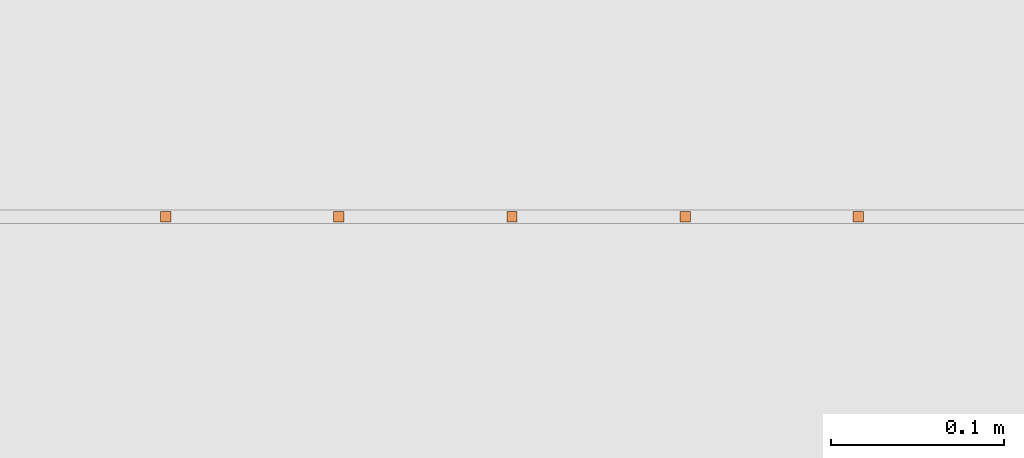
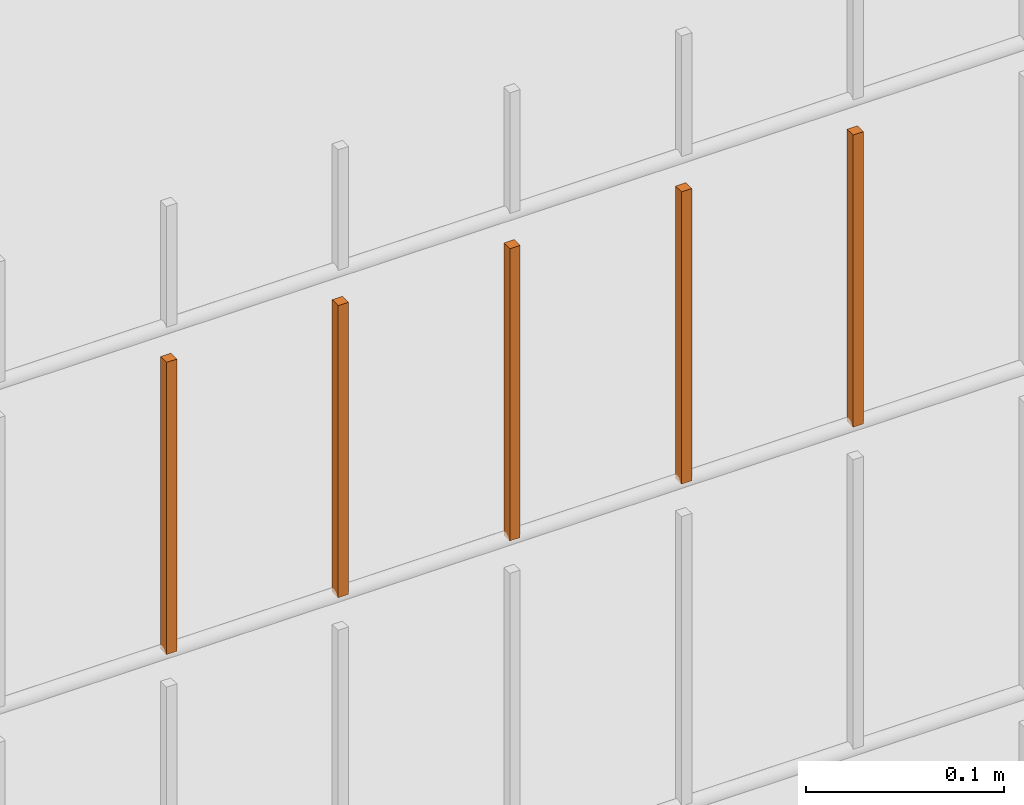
# One storey, part 236 of 1809: 5 proxies, 1 element without a shape of its own.
"""IFC2X3 building model written with IfcOpenShell, lengths in millimetres."""

import ifcopenshell
import ifcopenshell.guid

model = None  # the IFC model being written
_history = None  # IfcOwnerHistory: only IFC2X3 demands one
_inside = {}  # id of a spatial element -> (the spatial element, [elements in it])
_under = {}  # id of a project, library or spatial element -> (it, [spatial elements below it])
_declared = {}  # id of a project -> (the project, [libraries it declares])
_typed = {}  # id of a type object -> (the type object, [elements of that type])
_made_of = {}  # id of a material, layer set ... -> (it, [elements and type objects made of it])


def new_model(schema):
    """Start an empty IFC model of exactly this schema.

    Asked for "IFC4X3", IfcOpenShell would pick the latest addendum, in which some entities
    have other attributes; the version numbers below select the first issue.
    IFC2X3 requires an IfcOwnerHistory on every rooted entity: one is made here for all.
    """
    global model, _history
    if schema == "IFC4X3":
        model = ifcopenshell.file(schema_version=(4, 3, 0, 0))
    else:
        model = ifcopenshell.file(schema=schema)
    _inside.clear()
    _under.clear()
    _declared.clear()
    _typed.clear()
    _made_of.clear()
    _history = None
    if model.schema == "IFC2X3":
        org = make("IfcOrganization", Name="unknown")
        user = make(
            "IfcPersonAndOrganization",
            ThePerson=make("IfcPerson", FamilyName="unknown"),
            TheOrganization=org,
        )
        app = make(
            "IfcApplication",
            ApplicationDeveloper=org,
            Version="unknown",
            ApplicationFullName="unknown",
            ApplicationIdentifier="unknown",
        )
        _history = make(
            "IfcOwnerHistory",
            OwningUser=user,
            OwningApplication=app,
            ChangeAction="ADDED",
            CreationDate=0,
        )
    return model


def make(cls, **values):
    """One entity of the class cls with the attributes given. An attribute that is None is left unset."""
    return model.create_entity(
        cls, **{name: value for name, value in values.items() if value is not None}
    )


def entity(cls, *values):
    """Any entity or typed value of the class cls, its attributes in the order of the schema. None: left unset."""
    e = model.create_entity(cls)
    for i, value in enumerate(values):
        if value is not None:
            e[i] = value
    return e


def rooted(cls, **values):
    """An entity with a GlobalId (a new one), such as an element, a storey or a relation."""
    return make(cls, GlobalId=ifcopenshell.guid.new(), OwnerHistory=_history, **values)


def si_unit(unit_type, name, prefix=None):
    """IfcSIUnit, for example si_unit("LENGTHUNIT", "METRE", prefix="MILLI")."""
    return make("IfcSIUnit", UnitType=unit_type, Prefix=prefix, Name=name)


def converted_unit(unit_type, name, factor, base, dimensions=None, offset=None):
    """IfcConversionBasedUnit, such as the inch: factor (a typed value) times the base unit."""
    return make(
        "IfcConversionBasedUnit"
        if offset is None
        else "IfcConversionBasedUnitWithOffset",
        ConversionOffset=offset,
        Dimensions=None
        if dimensions is None
        else entity("IfcDimensionalExponents", *dimensions),
        UnitType=unit_type,
        Name=name,
        ConversionFactor=make(
            "IfcMeasureWithUnit", ValueComponent=factor, UnitComponent=base
        ),
    )


def derived_unit(unit_type, elements):
    """IfcDerivedUnit: a product of units, each with its exponent."""
    return make(
        "IfcDerivedUnit",
        Elements=[
            make("IfcDerivedUnitElement", Unit=unit, Exponent=power)
            for unit, power in elements
        ],
        UnitType=unit_type,
    )


def money_unit(currency):
    """IfcMonetaryUnit."""
    return make("IfcMonetaryUnit", Currency=currency)


def assignment(units):
    """IfcUnitAssignment: the units of a project."""
    return None if units is None else make("IfcUnitAssignment", Units=units)


def point(xyz):
    """IfcCartesianPoint."""
    return None if xyz is None else make("IfcCartesianPoint", Coordinates=xyz)


def direction(xyz):
    """IfcDirection."""
    return None if xyz is None else make("IfcDirection", DirectionRatios=xyz)


def frame(location, z_axis=None, x_axis=None):
    """IfcAxis2Placement3D, a coordinate frame: its origin and axes. An axis left out is left unset."""
    return make(
        "IfcAxis2Placement3D",
        Location=point(location),
        Axis=direction(z_axis),
        RefDirection=direction(x_axis),
    )


def origin_with_axes():
    """The frame at (0, 0, 0) with the z axis (0, 0, 1) and the x axis (1, 0, 0) written out."""
    return frame((0.0, 0.0, 0.0), z_axis=(0.0, 0.0, 1.0), x_axis=(1.0, 0.0, 0.0))


def place(relative_to, where):
    """IfcLocalPlacement: puts the frame where relative to a parent placement (None: the world)."""
    return make(
        "IfcLocalPlacement", PlacementRelTo=relative_to, RelativePlacement=where
    )


def context(
    kind, dimensions, precision=None, world=None, true_north=None, identifier=None
):
    """IfcGeometricRepresentationContext, for example the 3D "Model" context."""
    return make(
        "IfcGeometricRepresentationContext",
        ContextIdentifier=identifier,
        ContextType=kind,
        CoordinateSpaceDimension=dimensions,
        Precision=precision,
        WorldCoordinateSystem=world,
        TrueNorth=true_north,
    )


def subcontext(parent, identifier, kind, view, scale=None):
    """IfcGeometricRepresentationSubContext, for example "Body" below "Model"."""
    return make(
        "IfcGeometricRepresentationSubContext",
        ContextIdentifier=identifier,
        ContextType=kind,
        ParentContext=parent,
        TargetScale=scale,
        TargetView=view,
    )


def project(units=None, contexts=None):
    """IfcProject with its units and contexts."""
    return rooted(
        "IfcProject",
        Name="project",
        RepresentationContexts=contexts,
        UnitsInContext=assignment(units),
    )


def spatial(cls, under=None, at=None, **own):
    """A site, building, storey or space (cls), placed at a placement, below another one or the project."""
    s = rooted(cls, ObjectPlacement=at, **own)
    if under is not None:
        _under.setdefault(under.id(), (under, []))[1].append(s)
    return s


def faces_of(points, faces, orient=None, outer=None):
    """IfcFace entities. A face is a list of loops; a loop is a list of indices into points, from 0.

    orient and outer hold one flag for each loop. By default every Orientation is true, the
    first loop of a face is its IfcFaceOuterBound and the others are IfcFaceBound.
    """
    made = []
    for i, loops in enumerate(faces):
        bounds = []
        for j, loop in enumerate(loops):
            is_outer = j == 0 if outer is None else outer[i][j]
            bounds.append(
                make(
                    "IfcFaceOuterBound" if is_outer else "IfcFaceBound",
                    Bound=make("IfcPolyLoop", Polygon=[points[k] for k in loop]),
                    Orientation=True if orient is None else orient[i][j],
                )
            )
        made.append(make("IfcFace", Bounds=bounds))
    return made


def faceted_brep(points, faces, orient=None, outer=None, voids=None):
    """IfcFacetedBrep: a solid bounded by flat faces; with voids (closed shells), ...WithVoids."""
    shared = [point(p) for p in points]
    hull = make("IfcClosedShell", CfsFaces=faces_of(shared, faces, orient, outer))
    if voids is None:
        return make("IfcFacetedBrep", Outer=hull)
    return make(
        "IfcFacetedBrepWithVoids",
        Outer=hull,
        Voids=[
            make(cls, CfsFaces=faces_of(shared, fs, o, b)) for cls, fs, o, b in voids
        ],
    )


def shape(context_of_items, identifier, shape_type, items):
    """IfcShapeRepresentation: the items that make up one representation, for example the "Body"."""
    return make(
        "IfcShapeRepresentation",
        ContextOfItems=context_of_items,
        RepresentationIdentifier=identifier,
        RepresentationType=shape_type,
        Items=items,
    )


def source(mapping_origin, context_of_items, identifier, shape_type, items):
    """IfcRepresentationMap: a shape defined once, which mapped items show again and again."""
    return make(
        "IfcRepresentationMap",
        MappingOrigin=mapping_origin,
        MappedRepresentation=shape(context_of_items, identifier, shape_type, items),
    )


def transform(
    local_origin,
    x_axis=None,
    y_axis=None,
    z_axis=None,
    scale=None,
    scale2=None,
    scale3=None,
    uniform=True,
):
    """IfcCartesianTransformationOperator3D, or its non-uniform kind. x_axis, y_axis, z_axis: its Axis1, 2, 3."""
    if uniform:
        return make(
            "IfcCartesianTransformationOperator3D",
            Axis1=direction(x_axis),
            Axis2=direction(y_axis),
            LocalOrigin=point(local_origin),
            Scale=scale,
            Axis3=direction(z_axis),
        )
    return make(
        "IfcCartesianTransformationOperator3DnonUniform",
        Axis1=direction(x_axis),
        Axis2=direction(y_axis),
        LocalOrigin=point(local_origin),
        Scale=scale,
        Axis3=direction(z_axis),
        Scale2=scale2,
        Scale3=scale3,
    )


def mapped(mapping_source, mapping_target):
    """IfcMappedItem: shows the shape of a source again, moved by a transform."""
    return make(
        "IfcMappedItem", MappingSource=mapping_source, MappingTarget=mapping_target
    )


def material(Name=None, Category=None):
    """IfcMaterial."""
    return make("IfcMaterial", Name=Name, Category=Category)


def made_of(thing, what):
    """Note that an element or type object is made of a material, layer set ...; save() writes the relation."""
    if what is not None:
        _made_of.setdefault(what.id(), (what, []))[1].append(thing)
    return thing


def type_object(cls, material=None, **own):
    """A type object (cls), such as IfcWallType, which elements share."""
    return made_of(rooted(cls, **own), material)


def element(
    cls,
    number,
    at=None,
    inside=None,
    cuts=None,
    type_object=None,
    material=None,
    context=None,
    identifier="Body",
    shape_type=None,
    held_by="IfcProductDefinitionShape",
    body=None,
    shapes=None,
    **own,
):
    """One element of the class cls, such as IfcWall. Its Tag is "e" and its number.

    at: its placement. inside: the storey or other place that contains it. cuts: it is an
    opening in that element (IfcRelVoidsElement). A single representation is given by context,
    identifier, shape_type and body (its items); several are given by shapes. held_by: the class
    of the entity that holds the representations. save() writes the other relations.
    """
    e = rooted(cls, Tag="e%d" % number, ObjectPlacement=at, **own)
    if body is not None:
        shapes = [shape(context, identifier, shape_type, body)]
    if shapes is not None:
        e.Representation = make(held_by, Representations=shapes)
    if inside is not None:
        _inside.setdefault(inside.id(), (inside, []))[1].append(e)
    if cuts is not None:
        rooted(
            "IfcRelVoidsElement", RelatingBuildingElement=cuts, RelatedOpeningElement=e
        )
    if type_object is not None:
        _typed.setdefault(type_object.id(), (type_object, []))[1].append(e)
    return made_of(e, material)


def aggregate(whole, parts):
    """IfcRelAggregates: a whole, such as a stair, and the parts it consists of."""
    return rooted("IfcRelAggregates", RelatingObject=whole, RelatedObjects=parts)


def save(model, path):
    """Write the relations noted so far, then the file.

    IfcRelAggregates (storeys below a building ...), IfcRelContainedInSpatialStructure (elements
    in a storey), IfcRelDefinesByType, IfcRelAssociatesMaterial and IfcRelDeclares: one each for
    every whole, place, type object, material and project.
    """
    for whole, parts in _under.values():
        aggregate(whole, parts)
    for where, things in _inside.values():
        rooted(
            "IfcRelContainedInSpatialStructure",
            RelatedElements=things,
            RelatingStructure=where,
        )
    for kind, things in _typed.values():
        rooted("IfcRelDefinesByType", RelatedObjects=things, RelatingType=kind)
    for what, things in _made_of.values():
        rooted("IfcRelAssociatesMaterial", RelatedObjects=things, RelatingMaterial=what)
    for by, libraries in _declared.values():
        rooted("IfcRelDeclares", RelatingContext=by, RelatedDefinitions=libraries)
    model.write(path)


model = new_model("IFC2X3")

# Units and contexts
model_context = context("Model", 3, precision=0.01, world=origin_with_axes(), true_north=direction((0.0, 1.0)))
body_context = subcontext(model_context, "Body", "Model", "MODEL_VIEW")
ifc_project = project(units=[si_unit("LENGTHUNIT", "METRE", prefix="MILLI"), si_unit("AREAUNIT", "SQUARE_METRE"), si_unit("VOLUMEUNIT", "CUBIC_METRE"), converted_unit("PLANEANGLEUNIT", "DEGREE", entity("IfcPlaneAngleMeasure", 0.0174532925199), si_unit("PLANEANGLEUNIT", "RADIAN"), dimensions=[0, 0, 0, 0, 0, 0, 0]), si_unit("SOLIDANGLEUNIT", "STERADIAN"), money_unit("EUR"), converted_unit("TIMEUNIT", "Year", entity("IfcTimeMeasure", 31556926.0), si_unit("TIMEUNIT", "SECOND"), dimensions=[0, 0, 1, 0, 0, 0, 0]), si_unit("MASSUNIT", "GRAM", prefix="KILO"), si_unit("THERMODYNAMICTEMPERATUREUNIT", "DEGREE_CELSIUS"), si_unit("LUMINOUSINTENSITYUNIT", "LUMEN"), si_unit("ENERGYUNIT", "JOULE", prefix="MEGA"), derived_unit("THERMALCONDUCTANCEUNIT", [(si_unit("POWERUNIT", "WATT"), 1), (si_unit("LENGTHUNIT", "METRE"), -1), (si_unit("THERMODYNAMICTEMPERATUREUNIT", "KELVIN"), -1)]), derived_unit("SPECIFICHEATCAPACITYUNIT", [(si_unit("ENERGYUNIT", "JOULE"), 1), (si_unit("MASSUNIT", "GRAM", prefix="KILO"), -1), (si_unit("THERMODYNAMICTEMPERATUREUNIT", "KELVIN"), -1)]), derived_unit("MASSDENSITYUNIT", [(si_unit("MASSUNIT", "GRAM", prefix="KILO"), 1), (si_unit("VOLUMEUNIT", "CUBIC_METRE"), -1)])], contexts=[model_context])

# Site, building, storey
site_placement = place(None, origin_with_axes())
site = spatial("IfcSite", under=ifc_project, at=site_placement, Name="Politse- ja Piirivalveameti ning Päästeameti ühishoone", CompositionType="ELEMENT")
building_placement = place(site_placement, origin_with_axes())
building = spatial("IfcBuilding", under=site, at=building_placement, Name="Politse- ja Piirivalveameti ning Päästeameti ühishoone", CompositionType="ELEMENT")
storey_placement = place(building_placement, origin_with_axes())
storey = spatial("IfcBuildingStorey", under=building, at=storey_placement, Name="Esimene korrus", CompositionType="ELEMENT", Elevation=0.0)

# Proxies
building_element_proxy_type_1 = type_object("IfcBuildingElementProxyType", Name="Railing Type", PredefinedType="NOTDEFINED")
proxy_1_placement = place(storey_placement, frame((-16775.8601056, 25156.7555964, 0.0), z_axis=(0.0, 0.0, 1.0), x_axis=(1.0, 0.0, 0.0)))
proxy_1 = element("IfcBuildingElementProxy", 1, at=proxy_1_placement, inside=storey, type_object=building_element_proxy_type_1, Name="KENNELI PIIRE")
ifc_material = material(Name="Teras - Konstruktsioon")
building_element_proxy_type_2 = type_object("IfcBuildingElementProxyType", Name="IfcBuildingElementProxy", PredefinedType="NOTDEFINED")
shared_shape = source(origin_with_axes(), body_context, "Body", "Brep", [
    faceted_brep([(3.0, 3.0, 0.0), (-3.0, 3.0, 0.0), (-3.0, 3.0, 180.000012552), (3.0, 3.0, 180.000012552), (3.0, -3.0, 0.0), (-3.0, -3.0, 0.0), (-3.0, -3.0, 180.000012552), (3.0, -3.0, 180.000012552)], [[[0, 1, 2, 3]], [[0, 4, 5, 1]], [[1, 5, 6, 2]], [[3, 2, 6, 7]], [[4, 0, 3, 7]], [[5, 4, 7, 6]]]),
])
proxy_2_placement = place(proxy_1_placement, frame((-4582.26655065, -16068.8402798, 2203.99998745), z_axis=(0.0, 0.0, 1.0), x_axis=(1.0, 0.0, 0.0)))
proxy_2 = element("IfcBuildingElementProxy", 2, at=proxy_2_placement, type_object=building_element_proxy_type_2, material=ifc_material, Name="BALUSTER - 001", context=body_context, shape_type="MappedRepresentation", body=[
    mapped(shared_shape, transform((0.0, 0.0, 0.0), x_axis=(0.0, -1.0, 0.0), y_axis=(1.0, 0.0, 0.0), z_axis=(0.0, 0.0, 1.0))),
])
proxy_3_placement = place(proxy_1_placement, frame((-4482.26655065, -16068.8402798, 2203.99998745), z_axis=(0.0, 0.0, 1.0), x_axis=(1.0, 0.0, 0.0)))
proxy_3 = element("IfcBuildingElementProxy", 3, at=proxy_3_placement, type_object=building_element_proxy_type_2, material=ifc_material, Name="BALUSTER - 001", context=body_context, shape_type="MappedRepresentation", body=[
    mapped(shared_shape, transform((0.0, 0.0, 0.0), x_axis=(0.0, -1.0, 0.0), y_axis=(1.0, 0.0, 0.0), z_axis=(0.0, 0.0, 1.0))),
])
proxy_4_placement = place(proxy_1_placement, frame((-4382.26655065, -16068.8402798, 2203.99998745), z_axis=(0.0, 0.0, 1.0), x_axis=(1.0, 0.0, 0.0)))
proxy_4 = element("IfcBuildingElementProxy", 4, at=proxy_4_placement, type_object=building_element_proxy_type_2, material=ifc_material, Name="BALUSTER - 001", context=body_context, shape_type="MappedRepresentation", body=[
    mapped(shared_shape, transform((0.0, 0.0, 0.0), x_axis=(0.0, -1.0, 0.0), y_axis=(1.0, 0.0, 0.0), z_axis=(0.0, 0.0, 1.0))),
])
proxy_5_placement = place(proxy_1_placement, frame((-4282.26655065, -16068.8402798, 2203.99998745), z_axis=(0.0, 0.0, 1.0), x_axis=(1.0, 0.0, 0.0)))
proxy_5 = element("IfcBuildingElementProxy", 5, at=proxy_5_placement, type_object=building_element_proxy_type_2, material=ifc_material, Name="BALUSTER - 001", context=body_context, shape_type="MappedRepresentation", body=[
    mapped(shared_shape, transform((0.0, 0.0, 0.0), x_axis=(0.0, -1.0, 0.0), y_axis=(1.0, 0.0, 0.0), z_axis=(0.0, 0.0, 1.0))),
])
proxy_6_placement = place(proxy_1_placement, frame((-4182.26655065, -16068.8402798, 2203.99998745), z_axis=(0.0, 0.0, 1.0), x_axis=(1.0, 0.0, 0.0)))
proxy_6 = element("IfcBuildingElementProxy", 6, at=proxy_6_placement, type_object=building_element_proxy_type_2, material=ifc_material, Name="BALUSTER - 001", context=body_context, shape_type="MappedRepresentation", body=[
    mapped(shared_shape, transform((0.0, 0.0, 0.0), x_axis=(0.0, -1.0, 0.0), y_axis=(1.0, 0.0, 0.0), z_axis=(0.0, 0.0, 1.0))),
])
aggregate(proxy_1, [proxy_2, proxy_3, proxy_4, proxy_5, proxy_6])

save(model, "model.ifc")
